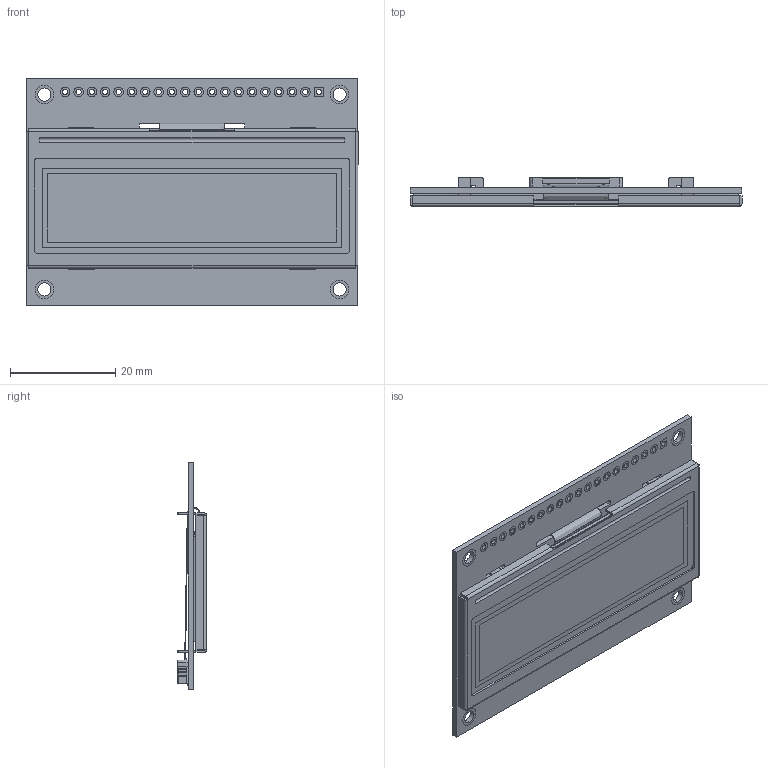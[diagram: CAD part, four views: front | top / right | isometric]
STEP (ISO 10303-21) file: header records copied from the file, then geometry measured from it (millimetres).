
FILE_DESCRIPTION (( 'STEP AP203' ), '1' );
FILE_NAME ('NHD-2.23-12832_260116.STEP', '2026-01-16T21:42:38', ( '' ), ( '' ), 'SwSTEP 2.0', 'SolidWorks 2019', '' );
FILE_SCHEMA (( 'CONFIG_CONTROL_DESIGN' ));
Length unit declared in the file: millimetre
Products named in the file (1): NHD-2.23-12832_260116
Bounding box: 63.2 x 5.5 x 43.1 mm (x, y, z)
Volume: 5961.1 mm3; surface area: 15769.6 mm2
Topology: 93 solids, 93 shells, 1272 faces, 3155 edges, 2098 vertices
Faces by surface type: plane 1030, cylinder 238, bspline 4
Entity records: 38728 total; most frequent: CARTESIAN_POINT 9022, ORIENTED_EDGE 6310, DIRECTION 5545, EDGE_CURVE 3155, VERTEX_POINT 2098, VECTOR 2047, LINE 2047, AXIS2_PLACEMENT_3D 1749
